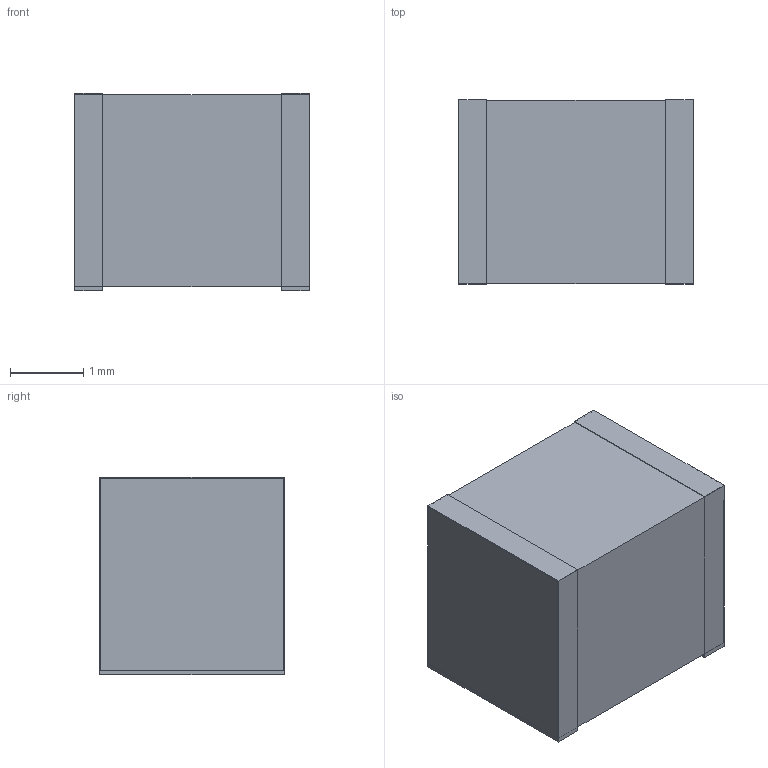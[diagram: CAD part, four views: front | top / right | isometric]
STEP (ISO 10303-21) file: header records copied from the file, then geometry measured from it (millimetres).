
FILE_DESCRIPTION(('FreeCAD Model'),'2;1');
FILE_NAME('Open CASCADE Shape Model','2026-09-23T12:07:02',('FreeCAD'),( 'FreeCAD'),'Open CASCADE STEP processor 7.8','FreeCAD','Unknown');
FILE_SCHEMA(('AUTOMOTIVE_DESIGN { 1 0 10303 214 1 1 1 1 }'));
Length unit declared in the file: millimetre
Products named in the file (1): Open CASCADE STEP translator 7.8 17
Bounding box: 3.2 x 2.52 x 2.69 mm (x, y, z)
Surface area: 80.8 mm2
Topology: 3 solids, 3 shells, 18 faces, 36 edges, 24 vertices
Faces by surface type: plane 18
Entity records: 466 total; most frequent: CARTESIAN_POINT 79, DIRECTION 74, ORIENTED_EDGE 72, EDGE_CURVE 36, LINE 36, VECTOR 36, VERTEX_POINT 24, AXIS2_PLACEMENT_3D 19
